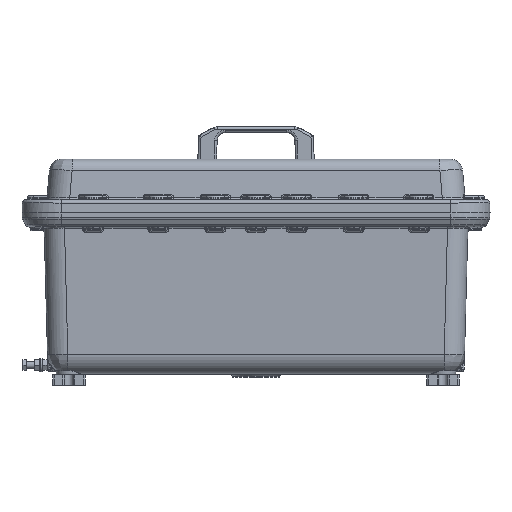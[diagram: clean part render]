
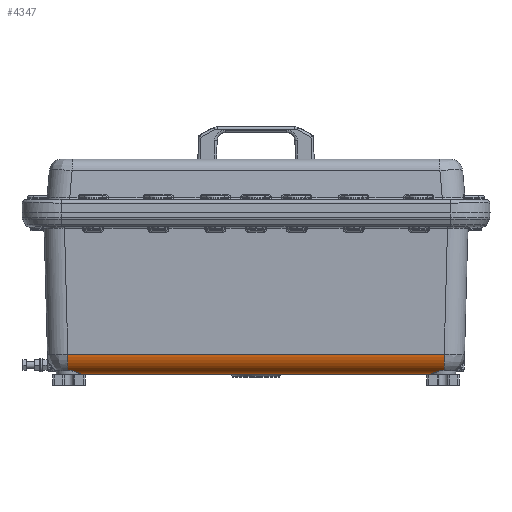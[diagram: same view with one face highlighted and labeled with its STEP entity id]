
A CAD part, front view. The second image highlights one B-rep face of the part: STEP entity #4347.
In plain terms, the highlighted cylindrical face has radius 25 mm (diameter 50 mm), a partial arc.
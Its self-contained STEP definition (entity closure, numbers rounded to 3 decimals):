
#4347=ADVANCED_FACE('',(#30965),#30967,.T.);
#30965=FACE_BOUND('',#30966,.T.);
#30966=EDGE_LOOP('',(#77151,#77152,#77153,#77154,#77155,#77156));
#30967=CYLINDRICAL_SURFACE('',#30968,25.);
#30968=AXIS2_PLACEMENT_3D('',#30969,#30970,#30971);
#30969=CARTESIAN_POINT('',(-330.616,-172.,-141.754));
#30970=DIRECTION('',(1.,0.,0.));
#30971=DIRECTION('',(0.,-1.,0.));
#77151=ORIENTED_EDGE('',*,*,#90514,.F.);
#77152=ORIENTED_EDGE('',*,*,#90333,.F.);
#77153=ORIENTED_EDGE('',*,*,#90515,.F.);
#77154=ORIENTED_EDGE('',*,*,#90435,.F.);
#77155=ORIENTED_EDGE('',*,*,#90516,.T.);
#77156=ORIENTED_EDGE('',*,*,#90445,.T.);
#90333=EDGE_CURVE('',#97079,#97081,#97082,.T.);
#90435=EDGE_CURVE('',#97269,#97267,#97271,.F.);
#90445=EDGE_CURVE('',#97288,#97286,#97289,.T.);
#90514=EDGE_CURVE('',#97081,#97286,#97410,.T.);
#90515=EDGE_CURVE('',#97267,#97079,#97411,.T.);
#90516=EDGE_CURVE('',#97269,#97288,#97412,.T.);
#97079=VERTEX_POINT('',#108561);
#97081=VERTEX_POINT('',#108566);
#97082=LINE('',#108567,#108568);
#97267=VERTEX_POINT('',#109490);
#97269=VERTEX_POINT('',#109508);
#97271=CIRCLE('',#109513,25.);
#97286=VERTEX_POINT('',#109626);
#97288=VERTEX_POINT('',#109647);
#97289=CIRCLE('',#109648,25.);
#97410=B_SPLINE_CURVE_WITH_KNOTS('',3,
(#110494,#110495,#110496,#110497,#110498,#110499,#110500,#110501,#110502,#110503,
#110504,#110505,#110506,#110507,#110508,#110509,#110510,#110511,#110512,#110513,
#110514,#110515,#110516,#110517,#110518),
.UNSPECIFIED.,.F.,.F.,
(4,1,1,1,1,1,1,1,1,1,1,1,1,1,1,1,1,1,1,1,1,1,4),
(0.,0.066,0.124,0.177,0.233,0.294,
0.36,0.431,0.502,0.571,0.635,
0.695,0.746,0.793,0.832,0.867,
0.895,0.917,0.934,0.95,0.967,
0.984,1.),
.UNSPECIFIED.);
#97411=B_SPLINE_CURVE_WITH_KNOTS('',3,
(#110519,#110520,#110521,#110522,#110523,#110524,#110525,#110526,#110527,#110528,
#110529,#110530,#110531,#110532,#110533,#110534,#110535,#110536,#110537,#110538,
#110539,#110540,#110541,#110542,#110543,#110544,#110545),
.UNSPECIFIED.,.F.,.F.,
(4,1,1,1,1,1,1,1,1,1,1,1,1,1,1,1,1,1,1,1,1,1,1,1,4),
(0.,0.018,0.034,0.048,0.061,
0.075,0.092,0.113,0.139,0.173,
0.215,0.264,0.317,0.374,0.436,
0.501,0.57,0.641,0.711,0.776,
0.837,0.89,0.937,0.972,1.),
.UNSPECIFIED.);
#97412=LINE('',#110546,#110547);
#108561=CARTESIAN_POINT('',(-214.503,-197.,-141.754));
#108566=CARTESIAN_POINT('',(214.503,-197.,-141.754));
#108567=CARTESIAN_POINT('',(-214.503,-197.,-141.754));
#108568=VECTOR('',#108569,1.);
#108569=DIRECTION('',(1.,0.,0.));
#109490=CARTESIAN_POINT('',(-231.254,-192.494,-156.072));
#109508=CARTESIAN_POINT('',(-231.254,-172.654,-166.745));
#109513=AXIS2_PLACEMENT_3D('',#109514,#109515,#109516);
#109514=CARTESIAN_POINT('',(-231.254,-172.,-141.754));
#109515=DIRECTION('',(1.,0.,0.));
#109516=DIRECTION('',(0.,-0.82,-0.573));
#109626=CARTESIAN_POINT('',(231.254,-192.494,-156.072));
#109647=CARTESIAN_POINT('',(231.254,-172.654,-166.745));
#109648=AXIS2_PLACEMENT_3D('',#109649,#109650,#109651);
#109649=CARTESIAN_POINT('',(231.254,-172.,-141.754));
#109650=DIRECTION('',(-1.,0.,-0.));
#109651=DIRECTION('',(0.,-0.026,-1.));
#110494=CARTESIAN_POINT('',(214.503,-197.,-141.754));
#110495=CARTESIAN_POINT('',(214.566,-197.01,-142.3));
#110496=CARTESIAN_POINT('',(214.734,-196.988,-143.316));
#110497=CARTESIAN_POINT('',(215.103,-196.857,-144.728));
#110498=CARTESIAN_POINT('',(215.555,-196.661,-146.014));
#110499=CARTESIAN_POINT('',(216.116,-196.4,-147.278));
#110500=CARTESIAN_POINT('',(216.833,-196.058,-148.577));
#110501=CARTESIAN_POINT('',(217.728,-195.637,-149.891));
#110502=CARTESIAN_POINT('',(218.791,-195.158,-151.159));
#110503=CARTESIAN_POINT('',(219.991,-194.653,-152.323));
#110504=CARTESIAN_POINT('',(221.263,-194.164,-153.328));
#110505=CARTESIAN_POINT('',(222.564,-193.718,-154.159));
#110506=CARTESIAN_POINT('',(223.821,-193.344,-154.802));
#110507=CARTESIAN_POINT('',(225.008,-193.045,-155.28));
#110508=CARTESIAN_POINT('',(226.074,-192.824,-155.612));
#110509=CARTESIAN_POINT('',(227.043,-192.663,-155.839));
#110510=CARTESIAN_POINT('',(227.88,-192.559,-155.98));
#110511=CARTESIAN_POINT('',(228.585,-192.499,-156.06));
#110512=CARTESIAN_POINT('',(229.14,-192.469,-156.101));
#110513=CARTESIAN_POINT('',(229.599,-192.456,-156.12));
#110514=CARTESIAN_POINT('',(230.018,-192.454,-156.127));
#110515=CARTESIAN_POINT('',(230.432,-192.461,-156.124));
#110516=CARTESIAN_POINT('',(230.848,-192.476,-156.106));
#110517=CARTESIAN_POINT('',(231.12,-192.488,-156.084));
#110518=CARTESIAN_POINT('',(231.254,-192.494,-156.072));
#110519=CARTESIAN_POINT('',(-231.254,-192.494,-156.072));
#110520=CARTESIAN_POINT('',(-231.1,-192.489,-156.085));
#110521=CARTESIAN_POINT('',(-230.815,-192.477,-156.105));
#110522=CARTESIAN_POINT('',(-230.413,-192.461,-156.123));
#110523=CARTESIAN_POINT('',(-230.06,-192.454,-156.127));
#110524=CARTESIAN_POINT('',(-229.72,-192.454,-156.122));
#110525=CARTESIAN_POINT('',(-229.358,-192.461,-156.111));
#110526=CARTESIAN_POINT('',(-228.922,-192.479,-156.087));
#110527=CARTESIAN_POINT('',(-228.388,-192.515,-156.041));
#110528=CARTESIAN_POINT('',(-227.717,-192.58,-155.956));
#110529=CARTESIAN_POINT('',(-226.892,-192.688,-155.81));
#110530=CARTESIAN_POINT('',(-225.896,-192.858,-155.565));
#110531=CARTESIAN_POINT('',(-224.784,-193.096,-155.199));
#110532=CARTESIAN_POINT('',(-223.593,-193.406,-154.693));
#110533=CARTESIAN_POINT('',(-222.373,-193.778,-154.043));
#110534=CARTESIAN_POINT('',(-221.139,-194.206,-153.234));
#110535=CARTESIAN_POINT('',(-219.924,-194.677,-152.26));
#110536=CARTESIAN_POINT('',(-218.76,-195.169,-151.123));
#110537=CARTESIAN_POINT('',(-217.687,-195.654,-149.84));
#110538=CARTESIAN_POINT('',(-216.767,-196.089,-148.475));
#110539=CARTESIAN_POINT('',(-216.016,-196.449,-147.081));
#110540=CARTESIAN_POINT('',(-215.445,-196.714,-145.737));
#110541=CARTESIAN_POINT('',(-215.031,-196.887,-144.474));
#110542=CARTESIAN_POINT('',(-214.764,-196.976,-143.392));
#110543=CARTESIAN_POINT('',(-214.6,-197.007,-142.499));
#110544=CARTESIAN_POINT('',(-214.53,-197.005,-141.986));
#110545=CARTESIAN_POINT('',(-214.503,-197.,-141.754));
#110546=CARTESIAN_POINT('',(-231.254,-172.654,-166.745));
#110547=VECTOR('',#110548,1.);
#110548=DIRECTION('',(1.,0.,0.));
